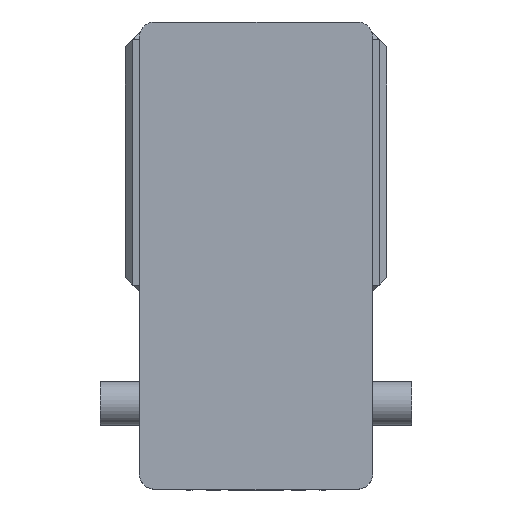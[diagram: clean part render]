
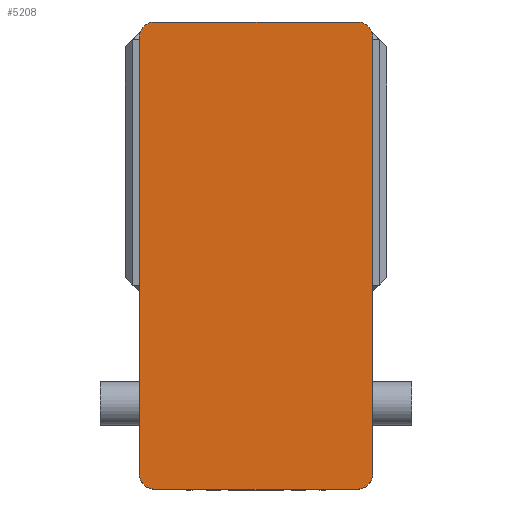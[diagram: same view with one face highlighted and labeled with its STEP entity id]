
A CAD part, left-side view. The second image highlights one B-rep face of the part: STEP entity #5208.
In plain terms, the highlighted planar face has unit normal (-1, 0, 0) as drawn and (0, 0, 1) by its records, which use the part's own axes.
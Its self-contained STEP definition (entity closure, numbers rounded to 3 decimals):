
#203 = VERTEX_POINT ( 'NONE', #7469 ) ;
#675 = CARTESIAN_POINT ( 'NONE',  ( -75., 140., 105. ) ) ;
#1347 = CARTESIAN_POINT ( 'NONE',  ( 75., -140., 105. ) ) ;
#1350 = AXIS2_PLACEMENT_3D ( 'NONE', #2153, #1629, #1642 ) ;
#1629 = DIRECTION ( 'NONE',  ( 0., 0., 1. ) ) ;
#1642 = DIRECTION ( 'NONE',  ( 1., 0., 0. ) ) ;
#1661 = PLANE ( 'NONE',  #1350 ) ;
#1911 = ORIENTED_EDGE ( 'NONE', *, *, #10609, .T. ) ;
#2019 = ORIENTED_EDGE ( 'NONE', *, *, #10412, .T. ) ;
#2153 = CARTESIAN_POINT ( 'NONE',  ( 0., 0., 105. ) ) ;
#2199 = DIRECTION ( 'NONE',  ( 1., 0., 0. ) ) ;
#2235 = DIRECTION ( 'NONE',  ( 0., 0., 1. ) ) ;
#2244 = CARTESIAN_POINT ( 'NONE',  ( -65., -140., 105. ) ) ;
#2311 = ORIENTED_EDGE ( 'NONE', *, *, #10583, .T. ) ;
#2644 = DIRECTION ( 'NONE',  ( 1., 0., 0. ) ) ;
#2651 = DIRECTION ( 'NONE',  ( 0., 0., 1. ) ) ;
#2674 = VERTEX_POINT ( 'NONE', #675 ) ;
#2684 = CARTESIAN_POINT ( 'NONE',  ( -65., 140., 105. ) ) ;
#3062 = ORIENTED_EDGE ( 'NONE', *, *, #10451, .T. ) ;
#3134 = DIRECTION ( 'NONE',  ( 1., 0., 0. ) ) ;
#3142 = DIRECTION ( 'NONE',  ( 0., 0., 1. ) ) ;
#3157 = CARTESIAN_POINT ( 'NONE',  ( 65., 140., 105. ) ) ;
#3217 = VERTEX_POINT ( 'NONE', #9008 ) ;
#3226 = VERTEX_POINT ( 'NONE', #8916 ) ;
#3324 = DIRECTION ( 'NONE',  ( 1., 0., 0. ) ) ;
#3333 = DIRECTION ( 'NONE',  ( 0., 0., 1. ) ) ;
#3373 = CARTESIAN_POINT ( 'NONE',  ( 65., -140., 105. ) ) ;
#3492 = EDGE_LOOP ( 'NONE', ( #3062, #9905, #7963, #7175, #3994, #2311, #2019, #1911 ) ) ;
#3994 = ORIENTED_EDGE ( 'NONE', *, *, #10233, .T. ) ;
#4076 = DIRECTION ( 'NONE',  ( 1., 0., 0. ) ) ;
#4098 = CARTESIAN_POINT ( 'NONE',  ( -75., -150., 105. ) ) ;
#4432 = DIRECTION ( 'NONE',  ( 0., -1., 0. ) ) ;
#4461 = CARTESIAN_POINT ( 'NONE',  ( -75., 150., 105. ) ) ;
#5196 = CIRCLE ( 'NONE', #5815, 10. ) ;
#5208 = ADVANCED_FACE ( 'NONE', ( #5867 ), #1661, .T. ) ;
#5249 = CIRCLE ( 'NONE', #6094, 10. ) ;
#5378 = CIRCLE ( 'NONE', #6526, 10. ) ;
#5407 = CIRCLE ( 'NONE', #6399, 10. ) ;
#5441 = VERTEX_POINT ( 'NONE', #10593 ) ;
#5472 = VECTOR ( 'NONE', #4076, 1000. ) ;
#5524 = LINE ( 'NONE', #4098, #5472 ) ;
#5556 = LINE ( 'NONE', #4461, #5581 ) ;
#5581 = VECTOR ( 'NONE', #4432, 1000. ) ;
#5815 = AXIS2_PLACEMENT_3D ( 'NONE', #2244, #2235, #2199 ) ;
#5867 = FACE_OUTER_BOUND ( 'NONE', #3492, .T. ) ;
#6026 = VECTOR ( 'NONE', #6931, 1000. ) ;
#6094 = AXIS2_PLACEMENT_3D ( 'NONE', #2684, #2651, #2644 ) ;
#6098 = LINE ( 'NONE', #6904, #6026 ) ;
#6399 = AXIS2_PLACEMENT_3D ( 'NONE', #3157, #3142, #3134 ) ;
#6434 = VECTOR ( 'NONE', #9180, 1000. ) ;
#6445 = LINE ( 'NONE', #9387, #6434 ) ;
#6526 = AXIS2_PLACEMENT_3D ( 'NONE', #3373, #3333, #3324 ) ;
#6904 = CARTESIAN_POINT ( 'NONE',  ( -75., 150., 105. ) ) ;
#6931 = DIRECTION ( 'NONE',  ( -1., 0., 0. ) ) ;
#7175 = ORIENTED_EDGE ( 'NONE', *, *, #10531, .T. ) ;
#7469 = CARTESIAN_POINT ( 'NONE',  ( -65., -150., 105. ) ) ;
#7675 = CARTESIAN_POINT ( 'NONE',  ( 75., 140., 105. ) ) ;
#7737 = VERTEX_POINT ( 'NONE', #1347 ) ;
#7963 = ORIENTED_EDGE ( 'NONE', *, *, #10118, .T. ) ;
#8916 = CARTESIAN_POINT ( 'NONE',  ( 65., -150., 105. ) ) ;
#9008 = CARTESIAN_POINT ( 'NONE',  ( -65., 150., 105. ) ) ;
#9180 = DIRECTION ( 'NONE',  ( 0., 1., 0. ) ) ;
#9387 = CARTESIAN_POINT ( 'NONE',  ( 75., 150., 105. ) ) ;
#9501 = CARTESIAN_POINT ( 'NONE',  ( -75., -140., 105. ) ) ;
#9905 = ORIENTED_EDGE ( 'NONE', *, *, #10516, .T. ) ;
#10040 = VERTEX_POINT ( 'NONE', #9501 ) ;
#10118 = EDGE_CURVE ( 'NONE', #7737, #10192, #6445, .T. ) ;
#10192 = VERTEX_POINT ( 'NONE', #7675 ) ;
#10233 = EDGE_CURVE ( 'NONE', #5441, #3217, #6098, .T. ) ;
#10412 = EDGE_CURVE ( 'NONE', #2674, #10040, #5556, .T. ) ;
#10451 = EDGE_CURVE ( 'NONE', #203, #3226, #5524, .T. ) ;
#10516 = EDGE_CURVE ( 'NONE', #3226, #7737, #5378, .T. ) ;
#10531 = EDGE_CURVE ( 'NONE', #10192, #5441, #5407, .T. ) ;
#10583 = EDGE_CURVE ( 'NONE', #3217, #2674, #5249, .T. ) ;
#10593 = CARTESIAN_POINT ( 'NONE',  ( 65., 150., 105. ) ) ;
#10609 = EDGE_CURVE ( 'NONE', #10040, #203, #5196, .T. ) ;
